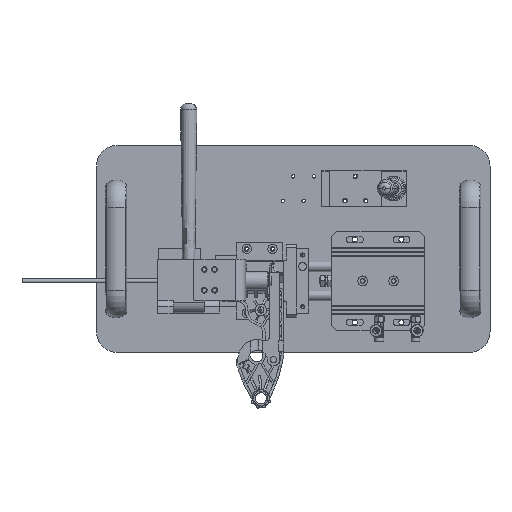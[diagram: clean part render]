
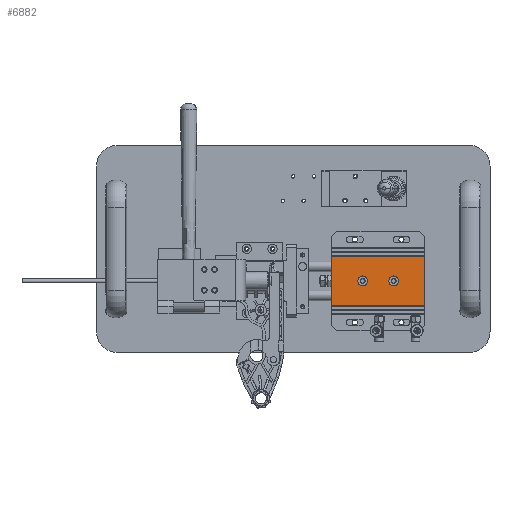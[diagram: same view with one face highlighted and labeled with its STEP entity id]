
A CAD part, top view. The second image highlights one B-rep face of the part: STEP entity #6882.
In plain terms, the highlighted planar face has unit normal (0, 0, 1) as drawn and (0, 1, 0) by its records, which use the part's own axes.
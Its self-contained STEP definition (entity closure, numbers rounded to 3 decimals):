
#1018 = EDGE_CURVE ( 'NONE', #20546, #27636, #4701, .T. ) ;
#1385 = ORIENTED_EDGE ( 'NONE', *, *, #20169, .F. ) ;
#1710 = CARTESIAN_POINT ( 'NONE',  ( 30., 25., 0. ) ) ;
#4701 = CIRCLE ( 'NONE', #13380, 4.75 ) ;
#6463 = DIRECTION ( 'NONE',  ( 0., 0., 1. ) ) ;
#6882 = ADVANCED_FACE ( 'NONE', ( #35001, #22370, #58721 ), #53731, .F. ) ;
#7258 = CARTESIAN_POINT ( 'NONE',  ( 90., 25., -23.9 ) ) ;
#9840 = EDGE_CURVE ( 'NONE', #18835, #16788, #38371, .T. ) ;
#10155 = EDGE_LOOP ( 'NONE', ( #10952, #53423, #25428, #24666 ) ) ;
#10952 = ORIENTED_EDGE ( 'NONE', *, *, #38724, .F. ) ;
#11022 = LINE ( 'NONE', #28056, #12501 ) ;
#11284 = DIRECTION ( 'NONE',  ( 0., -1., 0. ) ) ;
#12180 = CARTESIAN_POINT ( 'NONE',  ( 0., 25., 23.9 ) ) ;
#12501 = VECTOR ( 'NONE', #61275, 1000. ) ;
#12993 = ORIENTED_EDGE ( 'NONE', *, *, #1018, .F. ) ;
#13209 = DIRECTION ( 'NONE',  ( 0., 0., 1. ) ) ;
#13380 = AXIS2_PLACEMENT_3D ( 'NONE', #20197, #53339, #24916 ) ;
#14790 = EDGE_LOOP ( 'NONE', ( #51090, #23124 ) ) ;
#15357 = EDGE_CURVE ( 'NONE', #16788, #18835, #33914, .T. ) ;
#16788 = VERTEX_POINT ( 'NONE', #37544 ) ;
#17726 = AXIS2_PLACEMENT_3D ( 'NONE', #34879, #11284, #44411 ) ;
#18447 = AXIS2_PLACEMENT_3D ( 'NONE', #52700, #24289, #57505 ) ;
#18554 = CARTESIAN_POINT ( 'NONE',  ( 90., 25., 23.9 ) ) ;
#18835 = VERTEX_POINT ( 'NONE', #41869 ) ;
#20169 = EDGE_CURVE ( 'NONE', #27636, #20546, #49129, .T. ) ;
#20197 = CARTESIAN_POINT ( 'NONE',  ( 60., 25., 0. ) ) ;
#20504 = EDGE_LOOP ( 'NONE', ( #12993, #1385 ) ) ;
#20546 = VERTEX_POINT ( 'NONE', #45854 ) ;
#20635 = DIRECTION ( 'NONE',  ( -1., 0., 0. ) ) ;
#22370 = FACE_BOUND ( 'NONE', #14790, .T. ) ;
#22458 = EDGE_CURVE ( 'NONE', #54523, #60404, #34075, .T. ) ;
#23124 = ORIENTED_EDGE ( 'NONE', *, *, #9840, .F. ) ;
#24150 = AXIS2_PLACEMENT_3D ( 'NONE', #25406, #58621, #30220 ) ;
#24289 = DIRECTION ( 'NONE',  ( 0., 1., 0. ) ) ;
#24666 = ORIENTED_EDGE ( 'NONE', *, *, #41841, .F. ) ;
#24916 = DIRECTION ( 'NONE',  ( 0., 0., 1. ) ) ;
#25406 = CARTESIAN_POINT ( 'NONE',  ( 30., 25., 0. ) ) ;
#25428 = ORIENTED_EDGE ( 'NONE', *, *, #22458, .F. ) ;
#26227 = VERTEX_POINT ( 'NONE', #12180 ) ;
#27335 = EDGE_CURVE ( 'NONE', #60404, #27435, #37539, .T. ) ;
#27435 = VERTEX_POINT ( 'NONE', #18554 ) ;
#27636 = VERTEX_POINT ( 'NONE', #48974 ) ;
#28056 = CARTESIAN_POINT ( 'NONE',  ( 0., 25., -23.9 ) ) ;
#28232 = DIRECTION ( 'NONE',  ( 1., 0., 0. ) ) ;
#30220 = DIRECTION ( 'NONE',  ( 0., 0., 1. ) ) ;
#30913 = VECTOR ( 'NONE', #13209, 1000. ) ;
#33914 = CIRCLE ( 'NONE', #24150, 4.75 ) ;
#34075 = LINE ( 'NONE', #56687, #56334 ) ;
#34798 = DIRECTION ( 'NONE',  ( 0., 1., 0. ) ) ;
#34879 = CARTESIAN_POINT ( 'NONE',  ( 90., 25., -23.9 ) ) ;
#35001 = FACE_OUTER_BOUND ( 'NONE', #10155, .T. ) ;
#35353 = AXIS2_PLACEMENT_3D ( 'NONE', #1710, #34798, #6463 ) ;
#37263 = VECTOR ( 'NONE', #20635, 1000. ) ;
#37539 = LINE ( 'NONE', #46345, #30913 ) ;
#37544 = CARTESIAN_POINT ( 'NONE',  ( 30., 25., 4.75 ) ) ;
#38371 = CIRCLE ( 'NONE', #35353, 4.75 ) ;
#38724 = EDGE_CURVE ( 'NONE', #27435, #26227, #49906, .T. ) ;
#41841 = EDGE_CURVE ( 'NONE', #26227, #54523, #11022, .T. ) ;
#41869 = CARTESIAN_POINT ( 'NONE',  ( 30., 25., -4.75 ) ) ;
#44286 = CARTESIAN_POINT ( 'NONE',  ( 90., 25., 23.9 ) ) ;
#44342 = CARTESIAN_POINT ( 'NONE',  ( 0., 25., -23.9 ) ) ;
#44411 = DIRECTION ( 'NONE',  ( 0., 0., -1. ) ) ;
#45854 = CARTESIAN_POINT ( 'NONE',  ( 60., 25., 4.75 ) ) ;
#46345 = CARTESIAN_POINT ( 'NONE',  ( 90., 25., -23.9 ) ) ;
#48974 = CARTESIAN_POINT ( 'NONE',  ( 60., 25., -4.75 ) ) ;
#49129 = CIRCLE ( 'NONE', #18447, 4.75 ) ;
#49906 = LINE ( 'NONE', #44286, #37263 ) ;
#51090 = ORIENTED_EDGE ( 'NONE', *, *, #15357, .F. ) ;
#52700 = CARTESIAN_POINT ( 'NONE',  ( 60., 25., 0. ) ) ;
#53339 = DIRECTION ( 'NONE',  ( 0., 1., 0. ) ) ;
#53423 = ORIENTED_EDGE ( 'NONE', *, *, #27335, .F. ) ;
#53731 = PLANE ( 'NONE',  #17726 ) ;
#54523 = VERTEX_POINT ( 'NONE', #44342 ) ;
#56334 = VECTOR ( 'NONE', #28232, 1000. ) ;
#56687 = CARTESIAN_POINT ( 'NONE',  ( 90., 25., -23.9 ) ) ;
#57505 = DIRECTION ( 'NONE',  ( 0., 0., 1. ) ) ;
#58621 = DIRECTION ( 'NONE',  ( 0., 1., 0. ) ) ;
#58721 = FACE_BOUND ( 'NONE', #20504, .T. ) ;
#60404 = VERTEX_POINT ( 'NONE', #7258 ) ;
#61275 = DIRECTION ( 'NONE',  ( 0., 0., -1. ) ) ;
